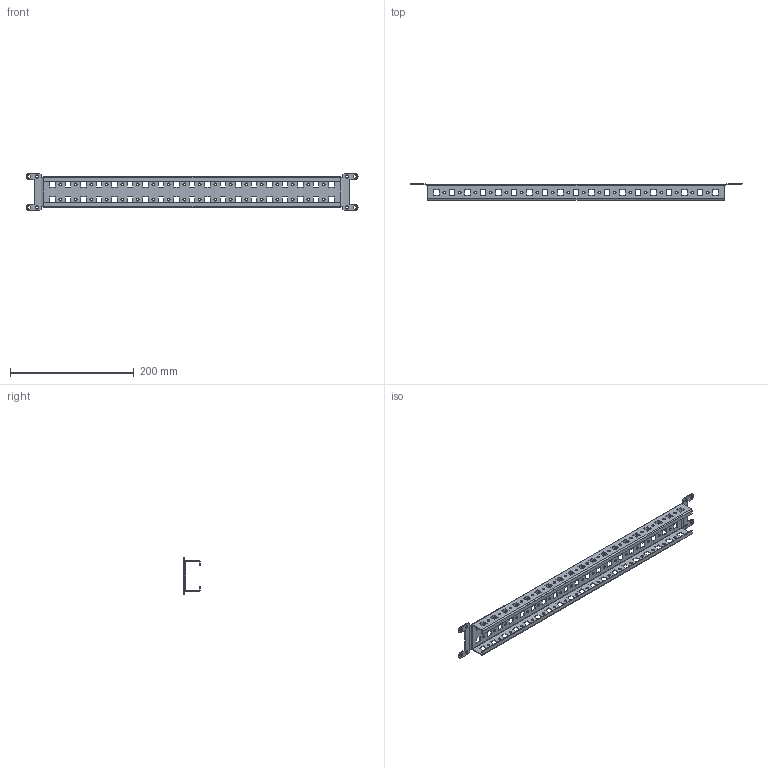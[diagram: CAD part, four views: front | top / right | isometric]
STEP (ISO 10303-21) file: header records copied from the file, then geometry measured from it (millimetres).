
FILE_DESCRIPTION(('CAx-IF Rec.Pracs.---Model Styling and Organization---1.2---2011-12-15','CAx-IF Rec.Pracs.---Geometric and Assembly Validation Properties---4.1---2014-06-16','CAx-IF Rec.Pracs.---PMI Polyline Presentation---2.0---2013-05-24'),'2;1');
FILE_NAME('R5PD600.stp','2021-05-06T03:21:18+03:00',(''),(''),'STEP Interface 4.4 by CT CoreTechnologie','3D_Evolution4.4 by CT CoreTechnologie','');
FILE_SCHEMA(('AUTOMOTIVE_DESIGN { 1 0 10303 214 1 1 1 1 }'));
Length unit declared in the file: millimetre
Products named in the file (3): R5PD600; R5PD600(2)^R5PD600; RB.0522.00.00.0_-01 600^R5PD600(2)_R5PD600
Assembly tree (2 placements, depth 3):
  R5PD600
    R5PD600(2)^R5PD600
      RB.0522.00.00.0_-01 600^R5PD600(2)_R5PD600
Bounding box: 535.5 x 26.5 x 60.5 mm (x, y, z)
Surface area: 102034.9 mm2 (no closed solid volume)
Topology: 0 solids, 4 shells, 552 faces, 1600 edges, 1056 vertices
Faces by surface type: plane 374, cylinder 178
Entity records: 18840 total; most frequent: CARTESIAN_POINT 3211, ORIENTED_EDGE 3200, DIRECTION 3066, EDGE_CURVE 1600, VECTOR 1244, LINE 1244, VERTEX_POINT 1056, AXIS2_PLACEMENT_3D 911
